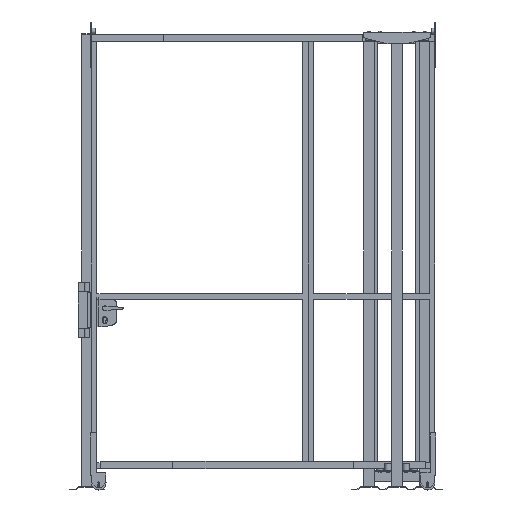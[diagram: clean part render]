
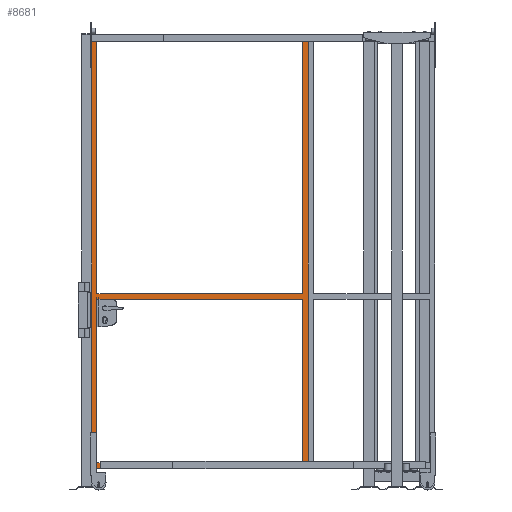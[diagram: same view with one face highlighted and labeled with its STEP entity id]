
A CAD part, front view. The second image highlights one B-rep face of the part: STEP entity #8681.
In plain terms, the highlighted planar face has unit normal (0, -1, 0).
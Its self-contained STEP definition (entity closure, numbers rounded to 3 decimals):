
#929=FACE_BOUND('',#1460,.T.);
#930=FACE_BOUND('',#1461,.T.);
#991=FACE_OUTER_BOUND('',#1459,.T.);
#1459=EDGE_LOOP('',(#6144,#6145,#6146,#6147));
#1460=EDGE_LOOP('',(#6148,#6149,#6150,#6151));
#1461=EDGE_LOOP('',(#6152,#6153,#6154,#6155));
#2048=LINE('',#12584,#3180);
#2054=LINE('',#12596,#3186);
#2055=LINE('',#12599,#3187);
#2058=LINE('',#12606,#3190);
#2059=LINE('',#12608,#3191);
#2060=LINE('',#12610,#3192);
#2061=LINE('',#12611,#3193);
#2062=LINE('',#12613,#3194);
#2063=LINE('',#12615,#3195);
#2064=LINE('',#12616,#3196);
#2065=LINE('',#12618,#3197);
#2066=LINE('',#12619,#3198);
#3180=VECTOR('',#9979,1.);
#3186=VECTOR('',#9987,1.);
#3187=VECTOR('',#9990,1.);
#3190=VECTOR('',#9995,1.);
#3191=VECTOR('',#9996,1.);
#3192=VECTOR('',#9997,1.);
#3193=VECTOR('',#9998,1.);
#3194=VECTOR('',#9999,1.);
#3195=VECTOR('',#10000,1.);
#3196=VECTOR('',#10001,1.);
#3197=VECTOR('',#10002,1.);
#3198=VECTOR('',#10003,1.);
#4239=VERTEX_POINT('',#12580);
#4241=VERTEX_POINT('',#12583);
#4244=VERTEX_POINT('',#12590);
#4246=VERTEX_POINT('',#12594);
#4247=VERTEX_POINT('',#12598);
#4249=VERTEX_POINT('',#12604);
#4250=VERTEX_POINT('',#12605);
#4251=VERTEX_POINT('',#12607);
#4252=VERTEX_POINT('',#12609);
#4253=VERTEX_POINT('',#12612);
#4254=VERTEX_POINT('',#12614);
#4255=VERTEX_POINT('',#12617);
#4994=EDGE_CURVE('',#4239,#4241,#2048,.T.);
#5000=EDGE_CURVE('',#4246,#4244,#2054,.T.);
#5001=EDGE_CURVE('',#4247,#4244,#2055,.T.);
#5004=EDGE_CURVE('',#4249,#4250,#2058,.T.);
#5005=EDGE_CURVE('',#4251,#4250,#2059,.T.);
#5006=EDGE_CURVE('',#4252,#4251,#2060,.T.);
#5007=EDGE_CURVE('',#4249,#4252,#2061,.T.);
#5008=EDGE_CURVE('',#4239,#4253,#2062,.T.);
#5009=EDGE_CURVE('',#4253,#4254,#2063,.T.);
#5010=EDGE_CURVE('',#4254,#4241,#2064,.T.);
#5011=EDGE_CURVE('',#4246,#4255,#2065,.T.);
#5012=EDGE_CURVE('',#4255,#4247,#2066,.T.);
#6144=ORIENTED_EDGE('',*,*,#5004,.T.);
#6145=ORIENTED_EDGE('',*,*,#5005,.F.);
#6146=ORIENTED_EDGE('',*,*,#5006,.F.);
#6147=ORIENTED_EDGE('',*,*,#5007,.F.);
#6148=ORIENTED_EDGE('',*,*,#5008,.T.);
#6149=ORIENTED_EDGE('',*,*,#5009,.T.);
#6150=ORIENTED_EDGE('',*,*,#5010,.T.);
#6151=ORIENTED_EDGE('',*,*,#4994,.F.);
#6152=ORIENTED_EDGE('',*,*,#5000,.F.);
#6153=ORIENTED_EDGE('',*,*,#5011,.T.);
#6154=ORIENTED_EDGE('',*,*,#5012,.T.);
#6155=ORIENTED_EDGE('',*,*,#5001,.T.);
#8283=PLANE('',#9194);
#8681=ADVANCED_FACE('',(#991,#929,#930),#8283,.F.);
#9194=AXIS2_PLACEMENT_3D('',#12603,#9993,#9994);
#9979=DIRECTION('',(1.,0.,0.));
#9987=DIRECTION('',(-1.,0.,0.));
#9990=DIRECTION('',(0.,0.,1.));
#9993=DIRECTION('center_axis',(0.,1.,0.));
#9994=DIRECTION('ref_axis',(0.,0.,1.));
#9995=DIRECTION('',(0.,0.,-1.));
#9996=DIRECTION('',(-1.,0.,0.));
#9997=DIRECTION('',(0.,0.,-1.));
#9998=DIRECTION('',(1.,0.,0.));
#9999=DIRECTION('',(0.,0.,1.));
#10000=DIRECTION('',(1.,0.,0.));
#10001=DIRECTION('',(0.,0.,-1.));
#10002=DIRECTION('',(0.,0.,-1.));
#10003=DIRECTION('',(-1.,0.,0.));
#12580=CARTESIAN_POINT('',(30.,0.,965.));
#12583=CARTESIAN_POINT('',(1170.,0.,965.));
#12584=CARTESIAN_POINT('',(600.,0.,965.));
#12590=CARTESIAN_POINT('',(30.,0.,935.));
#12594=CARTESIAN_POINT('',(1170.,0.,935.));
#12596=CARTESIAN_POINT('',(600.,0.,935.));
#12598=CARTESIAN_POINT('',(30.,0.,30.));
#12599=CARTESIAN_POINT('',(30.,0.,1200.));
#12603=CARTESIAN_POINT('Origin',(600.,0.,1200.));
#12604=CARTESIAN_POINT('',(0.,0.,2400.));
#12605=CARTESIAN_POINT('',(0.,0.,0.));
#12606=CARTESIAN_POINT('',(0.,0.,1200.));
#12607=CARTESIAN_POINT('',(1200.,0.,0.));
#12608=CARTESIAN_POINT('',(600.,0.,0.));
#12609=CARTESIAN_POINT('',(1200.,0.,2400.));
#12610=CARTESIAN_POINT('',(1200.,0.,1200.));
#12611=CARTESIAN_POINT('',(600.,0.,2400.));
#12612=CARTESIAN_POINT('',(30.,0.,2370.));
#12613=CARTESIAN_POINT('',(30.,0.,1200.));
#12614=CARTESIAN_POINT('',(1170.,0.,2370.));
#12615=CARTESIAN_POINT('',(600.,0.,2370.));
#12616=CARTESIAN_POINT('',(1170.,0.,1200.));
#12617=CARTESIAN_POINT('',(1170.,0.,30.));
#12618=CARTESIAN_POINT('',(1170.,0.,1200.));
#12619=CARTESIAN_POINT('',(600.,0.,30.));
